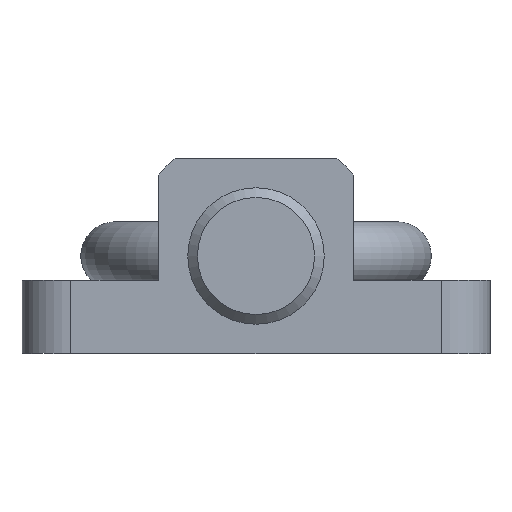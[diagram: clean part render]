
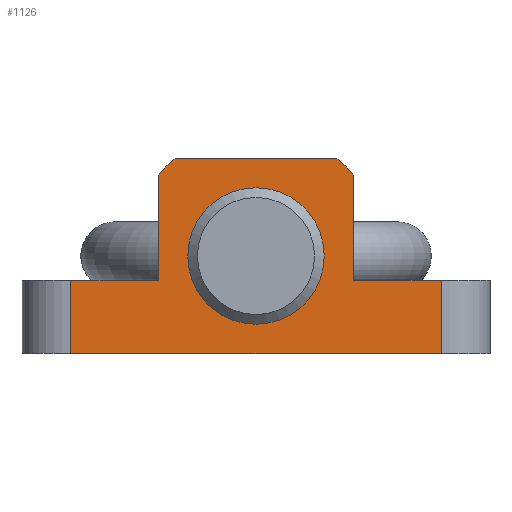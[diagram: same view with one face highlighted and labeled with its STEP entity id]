
A CAD part, front view. The second image highlights one B-rep face of the part: STEP entity #1126.
In plain terms, the highlighted planar face has unit normal (0, -1, 0).
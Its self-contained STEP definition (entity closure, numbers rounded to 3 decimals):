
#50=LINE('',#1777,#150);
#53=LINE('',#1787,#153);
#57=LINE('',#1799,#157);
#64=LINE('',#1821,#164);
#72=LINE('',#1849,#172);
#73=LINE('',#1851,#173);
#74=LINE('',#1852,#174);
#75=LINE('',#1854,#175);
#150=VECTOR('',#1409,1000.);
#153=VECTOR('',#1420,1000.);
#157=VECTOR('',#1432,1000.);
#164=VECTOR('',#1449,1000.);
#172=VECTOR('',#1473,1000.);
#173=VECTOR('',#1474,1000.);
#174=VECTOR('',#1475,1000.);
#175=VECTOR('',#1476,1000.);
#249=PLANE('',#1251);
#407=ORIENTED_EDGE('',*,*,#655,.F.);
#408=ORIENTED_EDGE('',*,*,#620,.F.);
#409=ORIENTED_EDGE('',*,*,#656,.F.);
#410=ORIENTED_EDGE('',*,*,#657,.T.);
#411=ORIENTED_EDGE('',*,*,#642,.F.);
#412=ORIENTED_EDGE('',*,*,#658,.F.);
#413=ORIENTED_EDGE('',*,*,#659,.F.);
#414=ORIENTED_EDGE('',*,*,#631,.F.);
#415=ORIENTED_EDGE('',*,*,#628,.F.);
#416=ORIENTED_EDGE('',*,*,#625,.F.);
#417=ORIENTED_EDGE('',*,*,#622,.F.);
#620=EDGE_CURVE('',#760,#761,#50,.T.);
#622=EDGE_CURVE('',#761,#762,#849,.T.);
#625=EDGE_CURVE('',#762,#764,#53,.T.);
#628=EDGE_CURVE('',#764,#766,#851,.T.);
#631=EDGE_CURVE('',#766,#768,#57,.T.);
#642=EDGE_CURVE('',#778,#779,#64,.T.);
#655=EDGE_CURVE('',#789,#789,#862,.T.);
#656=EDGE_CURVE('',#790,#760,#72,.T.);
#657=EDGE_CURVE('',#790,#779,#73,.T.);
#658=EDGE_CURVE('',#791,#778,#74,.T.);
#659=EDGE_CURVE('',#768,#791,#75,.T.);
#760=VERTEX_POINT('',#1776);
#761=VERTEX_POINT('',#1778);
#762=VERTEX_POINT('',#1782);
#764=VERTEX_POINT('',#1788);
#766=VERTEX_POINT('',#1794);
#768=VERTEX_POINT('',#1800);
#778=VERTEX_POINT('',#1822);
#779=VERTEX_POINT('',#1823);
#789=VERTEX_POINT('',#1848);
#790=VERTEX_POINT('',#1850);
#791=VERTEX_POINT('',#1853);
#849=CIRCLE('',#1233,13.);
#851=CIRCLE('',#1237,13.);
#862=CIRCLE('',#1252,7.);
#927=EDGE_LOOP('',(#407));
#928=EDGE_LOOP('',(#408,#409,#410,#411,#412,#413,#414,#415,#416,#417));
#1027=FACE_BOUND('',#927,.T.);
#1028=FACE_BOUND('',#928,.T.);
#1126=ADVANCED_FACE('',(#1027,#1028),#249,.F.);
#1233=AXIS2_PLACEMENT_3D('',#1781,#1413,#1414);
#1237=AXIS2_PLACEMENT_3D('',#1793,#1425,#1426);
#1251=AXIS2_PLACEMENT_3D('',#1846,#1469,#1470);
#1252=AXIS2_PLACEMENT_3D('',#1847,#1471,#1472);
#1409=DIRECTION('',(0.,0.,1.));
#1413=DIRECTION('',(0.,1.,0.));
#1414=DIRECTION('',(1.,0.,0.));
#1420=DIRECTION('',(1.,0.,0.));
#1425=DIRECTION('',(0.,1.,0.));
#1426=DIRECTION('',(1.,0.,0.));
#1432=DIRECTION('',(0.,0.,-1.));
#1449=DIRECTION('',(-1.,0.,0.));
#1469=DIRECTION('',(0.,1.,0.));
#1470=DIRECTION('',(0.,0.,1.));
#1471=DIRECTION('',(0.,-1.,0.));
#1472=DIRECTION('',(0.,0.,-1.));
#1473=DIRECTION('',(1.,0.,0.));
#1474=DIRECTION('',(0.,0.,-1.));
#1475=DIRECTION('',(0.,0.,-1.));
#1476=DIRECTION('',(1.,0.,0.));
#1776=CARTESIAN_POINT('',(-10.,0.,-2.5));
#1777=CARTESIAN_POINT('',(-10.,0.,-8.307));
#1778=CARTESIAN_POINT('',(-10.,0.,8.307));
#1781=CARTESIAN_POINT('',(0.,0.,0.));
#1782=CARTESIAN_POINT('',(-8.307,0.,10.));
#1787=CARTESIAN_POINT('',(-8.307,0.,10.));
#1788=CARTESIAN_POINT('',(8.307,0.,10.));
#1793=CARTESIAN_POINT('',(0.,0.,0.));
#1794=CARTESIAN_POINT('',(10.,0.,8.307));
#1799=CARTESIAN_POINT('',(10.,0.,8.307));
#1800=CARTESIAN_POINT('',(10.,0.,-2.5));
#1821=CARTESIAN_POINT('',(8.307,0.,-10.));
#1822=CARTESIAN_POINT('',(19.,0.,-10.));
#1823=CARTESIAN_POINT('',(-19.,0.,-10.));
#1846=CARTESIAN_POINT('',(0.,0.,0.));
#1847=CARTESIAN_POINT('',(0.,0.,0.));
#1848=CARTESIAN_POINT('',(0.,0.,-7.));
#1849=CARTESIAN_POINT('',(-19.,0.,-2.5));
#1850=CARTESIAN_POINT('',(-19.,0.,-2.5));
#1851=CARTESIAN_POINT('',(-19.,0.,-2.5));
#1852=CARTESIAN_POINT('',(19.,0.,-2.5));
#1853=CARTESIAN_POINT('',(19.,0.,-2.5));
#1854=CARTESIAN_POINT('',(-19.,0.,-2.5));
